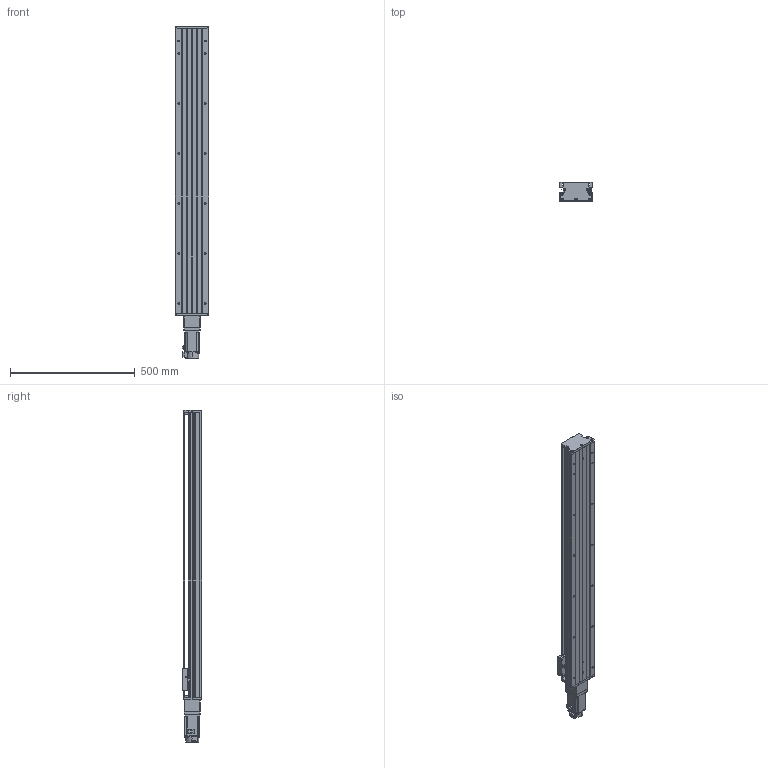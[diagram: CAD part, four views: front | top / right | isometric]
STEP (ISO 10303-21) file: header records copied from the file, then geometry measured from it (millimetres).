
FILE_DESCRIPTION (( 'STEP AP203' ), '1' );
FILE_NAME ('KTH130-1000-BC-M40-C4.step', '2023-06-30T03:52:47', ( '微软用户' ), ( '微软中国' ), 'SwSTEP 2.0', 'SolidWorks 2020', '' );
FILE_SCHEMA (( 'CONFIG_CONTROL_DESIGN' ));
Length unit declared in the file: millimetre
Products named in the file (19): GB1155-6X6; GBT77-2000 M3×3; KTH130-1000-BC-M40-C4; GBT70.1 M5℅16; す晦芛蹟隊 M3℅5; GBT 70.2-M3¡Á5_M3¡Á6; GBT 70.3-M3℅8; GTH14-001_1000; CTHA60-017; CTHA86-006-1_M40; KTH130-002_KTH130-002; EE_SX911P_R; CTHA86-013; KTH130-004; CTHA60-016; CTHA86-027-1; KTH130-005; GBT 70.1-M3℅5; HG-KN43J-S100
Assembly tree (52 placements, depth 2):
  KTH130-1000-BC-M40-C4
    GTH14-001_1000
    KTH130-002_KTH130-002
    KTH130-004
    KTH130-005
    GB1155-6X6  x2
    GBT70.1 M5℅16  x10
    GBT 70.2-M3¡Á5_M3¡Á6  x4
    CTHA60-017  x3
    EE_SX911P_R  x3
    CTHA60-016  x2
    GBT 70.1-M3℅5  x6
    GBT77-2000 M3×3  x6
    す晦芛蹟隊 M3℅5  x2
    GBT 70.3-M3℅8  x6
    CTHA86-006-1_M40
    CTHA86-013
    CTHA86-027-1
    HG-KN43J-S100
Bounding box: 135 x 78 x 1328.7 mm (x, y, z)
Volume: 6767402.7 mm3; surface area: 1019315.7 mm2
Topology: 55 solids, 55 shells, 2202 faces, 5326 edges, 3326 vertices
Faces by surface type: plane 1198, cylinder 616, cone 280, torus 96, sphere 12
Entity records: 40498 total; most frequent: CARTESIAN_POINT 8576, DIRECTION 6045, ORIENTED_EDGE 5936, EDGE_CURVE 2968, AXIS2_PLACEMENT_3D 2069, VECTOR 1907, LINE 1907, VERTEX_POINT 1898
